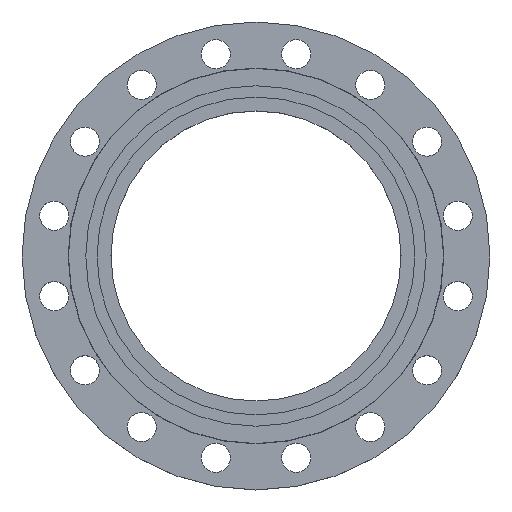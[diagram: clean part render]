
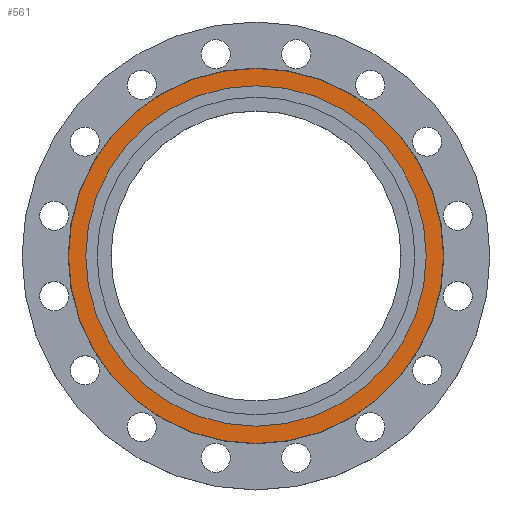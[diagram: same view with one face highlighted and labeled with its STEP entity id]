
A CAD part, top view. The second image highlights one B-rep face of the part: STEP entity #561.
In plain terms, the highlighted planar face has unit normal (0, 0, 1).
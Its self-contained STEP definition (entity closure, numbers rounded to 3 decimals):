
#259 = VERTEX_POINT ( 'NONE', #1568 ) ;
#263 = VERTEX_POINT ( 'NONE', #1567 ) ;
#297 = CIRCLE ( 'NONE', #865, 211. ) ;
#377 = DIRECTION ( 'NONE',  ( -1., 0., 0. ) ) ;
#548 = DIRECTION ( 'NONE',  ( -1., 0., 0. ) ) ;
#549 = DIRECTION ( 'NONE',  ( 0., 0., -1. ) ) ;
#552 = AXIS2_PLACEMENT_3D ( 'NONE', #1336, #1335, #1333 ) ;
#554 = CARTESIAN_POINT ( 'NONE',  ( 0., 0., 0. ) ) ;
#561 = ADVANCED_FACE ( 'NONE', ( #1339, #1338 ), #1337, .T. ) ;
#583 = CIRCLE ( 'NONE', #587, 211. ) ;
#587 = AXIS2_PLACEMENT_3D ( 'NONE', #554, #549, #548 ) ;
#602 = VERTEX_POINT ( 'NONE', #1321 ) ;
#605 = EDGE_LOOP ( 'NONE', ( #802, #804 ) ) ;
#635 = EDGE_CURVE ( 'NONE', #259, #821, #643, .T. ) ;
#643 = CIRCLE ( 'NONE', #647, 232.5 ) ;
#647 = AXIS2_PLACEMENT_3D ( 'NONE', #1274, #1273, #1272 ) ;
#775 = AXIS2_PLACEMENT_3D ( 'NONE', #1016, #1312, #377 ) ;
#776 = EDGE_CURVE ( 'NONE', #602, #263, #297, .T. ) ;
#798 = ORIENTED_EDGE ( 'NONE', *, *, #1533, .F. ) ;
#800 = ORIENTED_EDGE ( 'NONE', *, *, #635, .F. ) ;
#802 = ORIENTED_EDGE ( 'NONE', *, *, #1206, .T. ) ;
#804 = ORIENTED_EDGE ( 'NONE', *, *, #776, .T. ) ;
#808 = CIRCLE ( 'NONE', #775, 232.5 ) ;
#821 = VERTEX_POINT ( 'NONE', #1103 ) ;
#865 = AXIS2_PLACEMENT_3D ( 'NONE', #1146, #1144, #1143 ) ;
#1016 = CARTESIAN_POINT ( 'NONE',  ( 0., 0., 0. ) ) ;
#1103 = CARTESIAN_POINT ( 'NONE',  ( -232.5, 0., 0. ) ) ;
#1143 = DIRECTION ( 'NONE',  ( -1., 0., 0. ) ) ;
#1144 = DIRECTION ( 'NONE',  ( 0., 0., -1. ) ) ;
#1146 = CARTESIAN_POINT ( 'NONE',  ( 0., 0., 0. ) ) ;
#1206 = EDGE_CURVE ( 'NONE', #263, #602, #583, .T. ) ;
#1272 = DIRECTION ( 'NONE',  ( -1., 0., 0. ) ) ;
#1273 = DIRECTION ( 'NONE',  ( 0., 0., -1. ) ) ;
#1274 = CARTESIAN_POINT ( 'NONE',  ( 0., 0., 0. ) ) ;
#1312 = DIRECTION ( 'NONE',  ( 0., 0., -1. ) ) ;
#1321 = CARTESIAN_POINT ( 'NONE',  ( 211., 0., 0. ) ) ;
#1333 = DIRECTION ( 'NONE',  ( 1., 0., 0. ) ) ;
#1335 = DIRECTION ( 'NONE',  ( 0., 0., 1. ) ) ;
#1336 = CARTESIAN_POINT ( 'NONE',  ( 0., 0., 0. ) ) ;
#1337 = PLANE ( 'NONE',  #552 ) ;
#1338 = FACE_BOUND ( 'NONE', #605, .T. ) ;
#1339 = FACE_OUTER_BOUND ( 'NONE', #1760, .T. ) ;
#1533 = EDGE_CURVE ( 'NONE', #821, #259, #808, .T. ) ;
#1567 = CARTESIAN_POINT ( 'NONE',  ( -211., 0., 0. ) ) ;
#1568 = CARTESIAN_POINT ( 'NONE',  ( 232.5, 0., 0. ) ) ;
#1760 = EDGE_LOOP ( 'NONE', ( #798, #800 ) ) ;
